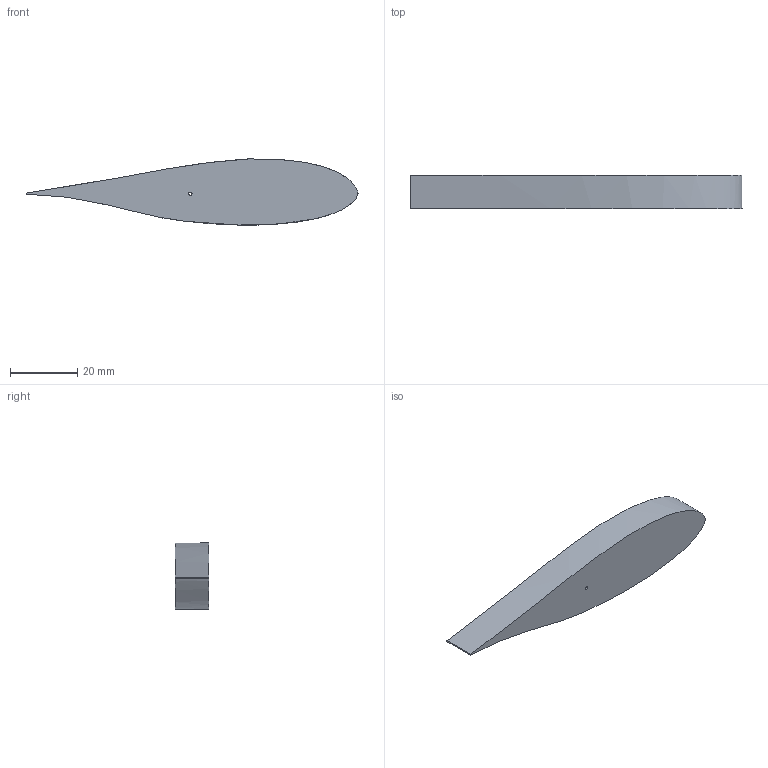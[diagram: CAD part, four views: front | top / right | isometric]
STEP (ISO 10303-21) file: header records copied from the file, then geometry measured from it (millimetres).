
FILE_DESCRIPTION(/* description */ (''),/* implementation_level */ '2;1');
FILE_NAME(/* name */ 'DU 06-W-200 VAWT .stp',/* time_stamp */ '2025-01-12T15:17:22+01:00',/* author */ ('R5800u'),/* organization */ (''),/* preprocessor_version */ 'ST-DEVELOPER v20',/* originating_system */ 'Autodesk Inventor 2025',/* authorisation */ '');
FILE_SCHEMA (('AUTOMOTIVE_DESIGN { 1 0 10303 214 3 1 1 }'));
Length unit declared in the file: millimetre
Products named in the file (1): darrius_pala
Bounding box: 99.01 x 10 x 19.72 mm (x, y, z)
Volume: 12053.2 mm3; surface area: 4650.5 mm2
Topology: 1 solids, 1 shells, 181 faces, 477 edges, 318 vertices
Faces by surface type: plane 102, bspline 77, cylinder 2
Full cylindrical faces by diameter (mm): 1 x1
Entity records: 7038 total; most frequent: CARTESIAN_POINT 2990, ORIENTED_EDGE 954, DIRECTION 537, EDGE_CURVE 477, LINE 319, VECTOR 319, VERTEX_POINT 318, EDGE_LOOP 203
